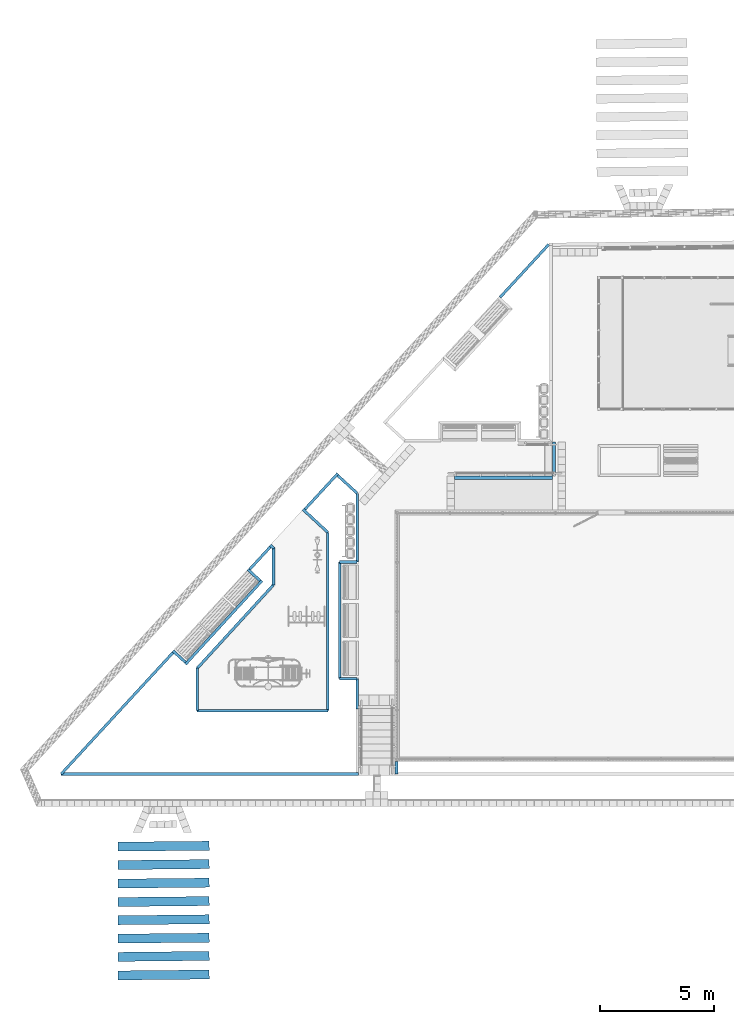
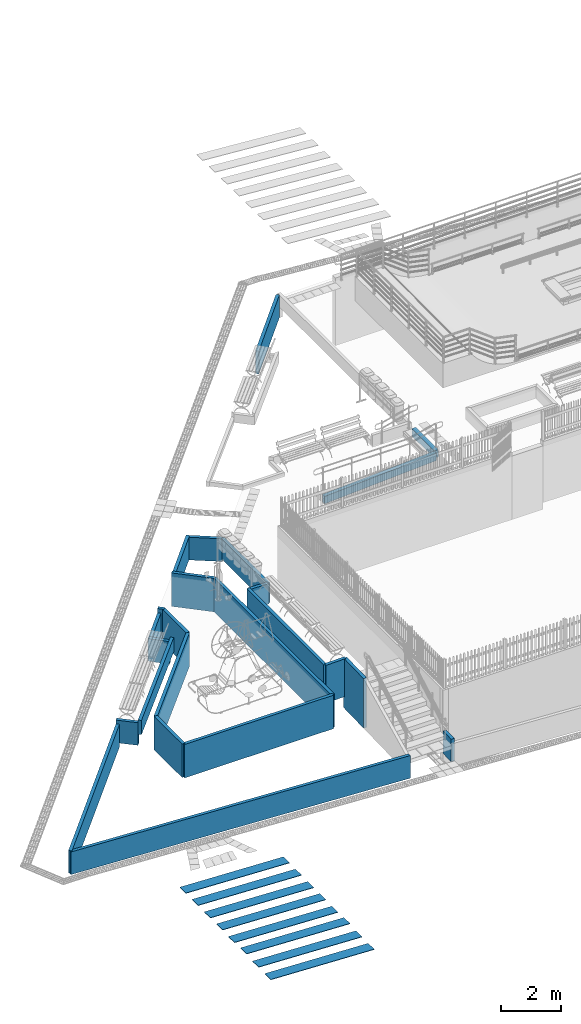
# One storey, part 10 of 237: 32 beams.
"""IFC2X3 building model written with IfcOpenShell, lengths in millimetres."""

from ifc_helpers import new_model, entity, si_unit, converted_unit, derived_unit, money_unit, direction, frame, frame_2d, origin_with_axes, place, context, subcontext, project, spatial, rectangle, extrude, clip, halfspace, material, type_object, element, save


model = new_model("IFC2X3")

# Units and contexts
model_context = context("Model", 3, precision=0.01, world=origin_with_axes(), true_north=direction((0.0, 1.0)))
body_context = subcontext(model_context, "Body", "Model", "MODEL_VIEW")
ifc_project = project(units=[si_unit("LENGTHUNIT", "METRE", prefix="MILLI"), si_unit("AREAUNIT", "SQUARE_METRE"), si_unit("VOLUMEUNIT", "CUBIC_METRE"), converted_unit("PLANEANGLEUNIT", "DEGREE", entity("IfcPlaneAngleMeasure", 0.0174532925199), si_unit("PLANEANGLEUNIT", "RADIAN"), dimensions=[0, 0, 0, 0, 0, 0, 0]), money_unit("USD"), converted_unit("TIMEUNIT", "Year", entity("IfcTimeMeasure", 31556926.0), si_unit("TIMEUNIT", "SECOND"), dimensions=[0, 0, 1, 0, 0, 0, 0]), si_unit("MASSUNIT", "GRAM", prefix="KILO"), si_unit("THERMODYNAMICTEMPERATUREUNIT", "DEGREE_CELSIUS"), si_unit("LUMINOUSINTENSITYUNIT", "LUMEN"), si_unit("ENERGYUNIT", "JOULE", prefix="MEGA"), derived_unit("THERMALCONDUCTANCEUNIT", [(si_unit("POWERUNIT", "WATT"), 1), (si_unit("LENGTHUNIT", "METRE"), -1), (si_unit("THERMODYNAMICTEMPERATUREUNIT", "KELVIN"), -1)]), derived_unit("SPECIFICHEATCAPACITYUNIT", [(si_unit("ENERGYUNIT", "JOULE"), 1), (si_unit("MASSUNIT", "GRAM", prefix="KILO"), -1), (si_unit("THERMODYNAMICTEMPERATUREUNIT", "KELVIN"), -1)]), derived_unit("MASSDENSITYUNIT", [(si_unit("MASSUNIT", "GRAM", prefix="KILO"), 1), (si_unit("VOLUMEUNIT", "CUBIC_METRE"), -1)])], contexts=[model_context])

# Site, building, storey
site_placement = place(None, origin_with_axes())
site = spatial("IfcSite", under=ifc_project, at=site_placement, Name="Local", CompositionType="ELEMENT")
building_placement = place(site_placement, origin_with_axes())
building = spatial("IfcBuilding", under=site, at=building_placement, Name="Construção", CompositionType="ELEMENT")
storey_placement = place(building_placement, origin_with_axes())
storey = spatial("IfcBuildingStorey", under=building, at=storey_placement, Name="Pavimento Térreo", CompositionType="ELEMENT", Elevation=0.0)

# Beams
ifc_material = material(Name="GENÉRICO - ESTRUTURAL")
beam_type_1 = type_object("IfcBeamType", Name="GENÉRICO - ESTRUTURAL 120 x 580", PredefinedType="NOTDEFINED")
beam_1_placement = place(storey_placement, frame((32970.4221769, 16900.1785551, -1764.1785296), z_axis=(0.0, 0.0, 1.0), x_axis=(0.737576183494, -0.675263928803, 0.0)))
element("IfcBeam", 1, at=beam_1_placement, inside=storey, type_object=beam_type_1, material=ifc_material, Name="Viga-030", context=body_context, shape_type="Clipping", body=[
    clip(clip(extrude(rectangle(XDim=579.510435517, YDim=120.0, at=frame_2d((-289.755217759, 0.0), x_axis=(1.0, 0.0))), frame((0.0, -4.66814056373, 0.0265900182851), z_axis=(0.0, 0.999983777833, -0.00569596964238), x_axis=(0.0, 0.00569596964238, 0.999983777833)), (0.0, 0.0, 1.0), 4982.75223581), halfspace(frame((0.0, 0.0, 0.0), z_axis=(0.0, 1.0, 0.0), x_axis=(0.0, 0.0, 1.0)), True)), halfspace(frame((0.0, 4973.33512364, 0.0), z_axis=(0.0, -1.0, 0.0), x_axis=(0.0, 0.0, -1.0)), True)),
])
beam_type_2 = type_object("IfcBeamType", Name="GENÉRICO - ESTRUTURAL 120 x 919", PredefinedType="NOTDEFINED")
beam_2_placement = place(storey_placement, frame((39649.0084728, 25261.219716, -1648.84947228), z_axis=(0.0, 0.0, 1.0), x_axis=(-0.735746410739, 0.677257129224, 0.0)))
element("IfcBeam", 2, at=beam_2_placement, inside=storey, type_object=beam_type_2, material=ifc_material, Name="Viga-030", context=body_context, shape_type="Clipping", body=[
    clip(clip(extrude(rectangle(XDim=919.288027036, YDim=120.0, at=frame_2d((-459.644013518, 0.0), x_axis=(1.0, 0.0))), frame((0.0, -52.050283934, 2.0855852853), z_axis=(0.0, 0.99919821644, -0.0400365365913), x_axis=(0.0, 0.0400365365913, 0.99919821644)), (0.0, 0.0, 1.0), 2232.17431685), halfspace(frame((0.0, 0.0, 0.0), z_axis=(0.0, 1.0, 0.0), x_axis=(0.0, 0.0, 1.0)), True)), halfspace(frame((0.0, 2126.28402831, 0.0), z_axis=(0.0, -1.0, 0.0), x_axis=(0.0, 0.0, -1.0)), True)),
])
beam_3_placement = place(storey_placement, frame((42222.4440926, 12622.6236011, -2821.29753448), z_axis=(0.0, 0.0, 1.0), x_axis=(-1.0, 0.0, 0.0)))
element("IfcBeam", 3, at=beam_3_placement, inside=storey, type_object=beam_type_2, material=ifc_material, Name="Viga-030", context=body_context, shape_type="Clipping", body=[
    clip(clip(extrude(rectangle(XDim=919.288027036, YDim=120.0, at=frame_2d((-459.644013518, 0.0), x_axis=(1.0, 0.0))), frame((0.0, -35.6481164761, 0.977844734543), z_axis=(0.0, 0.99962399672, -0.027420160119), x_axis=(0.0, 0.027420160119, 0.99962399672)), (0.0, 0.0, 1.0), 611.492061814), halfspace(frame((0.0, 0.0, 0.0), z_axis=(0.0, 1.0, 0.0), x_axis=(0.0, 0.0, 1.0)), True)), halfspace(frame((0.0, 539.965905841, 0.0), z_axis=(0.0, -1.0, 0.0), x_axis=(0.0, 0.0, -1.0)), True)),
])
beam_4_placement = place(storey_placement, frame((32415.7451354, 17492.436553, -1883.39824674), z_axis=(0.0, 0.0, 1.0), x_axis=(-0.677327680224, -0.735681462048, 0.0)))
element("IfcBeam", 4, at=beam_4_placement, inside=storey, type_object=beam_type_2, material=ifc_material, Name="Viga-030", context=body_context, shape_type="Clipping", body=[
    clip(clip(extrude(rectangle(XDim=919.288027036, YDim=120.0, at=frame_2d((-459.644013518, 0.0), x_axis=(1.0, 0.0))), frame((0.0, -10.6018318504, -0.0864588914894), z_axis=(0.0, 0.999966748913, 0.00815481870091), x_axis=(0.0, -0.00815481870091, 0.999966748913)), (0.0, 0.0, 1.0), 770.279253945), halfspace(frame((0.0, 0.0, 0.0), z_axis=(0.0, 1.0, 0.0), x_axis=(0.0, 0.0, 1.0)), True)), halfspace(frame((0.0, 749.049977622, 0.0), z_axis=(0.0, -1.0, 0.0), x_axis=(0.0, 0.0, -1.0)), True)),
])
beam_5_placement = place(storey_placement, frame((40562.1512976, 12083.0956335, -2899.56876412), z_axis=(0.0, 0.0, 1.0), x_axis=(0.0, 1.0, 0.0)))
element("IfcBeam", 5, at=beam_5_placement, inside=storey, type_object=beam_type_2, material=ifc_material, Name="Viga-030", context=body_context, shape_type="Clipping", body=[
    clip(clip(extrude(rectangle(XDim=919.288027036, YDim=120.0, at=frame_2d((-459.644013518, 0.0), x_axis=(1.0, 0.0))), frame((0.0, -64.3611872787, -3.19017376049), z_axis=(0.0, 0.998773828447, 0.0495059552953), x_axis=(0.0, -0.0495059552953, 0.998773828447)), (0.0, 0.0, 1.0), 13190.5401605), halfspace(frame((0.0, 0.0, 0.0), z_axis=(0.0, 1.0, 0.0), x_axis=(0.0, 0.0, 1.0)), True)), halfspace(frame((0.0, 13045.6439208, 0.0), z_axis=(0.0, -1.0, 0.0), x_axis=(0.0, 0.0, -1.0)), True)),
])
beam_6_placement = place(storey_placement, frame((39652.6326915, 25176.5523805, -1646.26270956), z_axis=(0.0, 0.0, 1.0), x_axis=(-0.675280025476, -0.737561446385, 0.0)))
element("IfcBeam", 6, at=beam_6_placement, inside=storey, type_object=beam_type_2, material=ifc_material, Name="Viga-030", context=body_context, shape_type="Clipping", body=[
    clip(clip(extrude(rectangle(XDim=919.288027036, YDim=120.0, at=frame_2d((-459.644013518, 0.0), x_axis=(1.0, 0.0))), frame((0.0, -122.268725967, -11.5503031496), z_axis=(0.0, 0.995567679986, 0.0940478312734), x_axis=(0.0, -0.0940478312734, 0.995567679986)), (0.0, 0.0, 1.0), 1402.94640781), halfspace(frame((0.0, 0.0, 0.0), z_axis=(0.0, 1.0, 0.0), x_axis=(0.0, 0.0, 1.0)), True)), halfspace(frame((0.0, 1152.19064843, 0.0), z_axis=(0.0, -1.0, 0.0), x_axis=(0.0, 0.0, -1.0)), True)),
])
beam_7_placement = place(storey_placement, frame((35701.5105862, 21061.2804101, -1879.74628854), z_axis=(0.0, 0.0, 1.0), x_axis=(-0.675263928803, -0.737576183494, 0.0)))
element("IfcBeam", 7, at=beam_7_placement, inside=storey, type_object=beam_type_2, material=ifc_material, Name="Viga-030", context=body_context, shape_type="Clipping", body=[
    clip(clip(extrude(rectangle(XDim=919.288027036, YDim=120.0, at=frame_2d((-459.644013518, 0.0), x_axis=(1.0, 0.0))), frame((0.0, -35.4546579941, 0.967256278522), z_axis=(0.0, 0.999628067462, -0.0272713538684), x_axis=(0.0, 0.0272713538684, 0.999628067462)), (0.0, 0.0, 1.0), 806.665562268), halfspace(frame((0.0, 0.0, 0.0), z_axis=(0.0, 1.0, 0.0), x_axis=(0.0, 0.0, 1.0)), True)), halfspace(frame((0.0, 735.45622111, 0.0), z_axis=(0.0, -1.0, 0.0), x_axis=(0.0, 0.0, -1.0)), True)),
])
beam_8_placement = place(storey_placement, frame((46774.640832, 33000.0697679, -1359.30166941), z_axis=(0.0, 0.0, 1.0), x_axis=(0.735719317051, -0.677286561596, 0.0)))
element("IfcBeam", 8, at=beam_8_placement, inside=storey, type_object=beam_type_2, material=ifc_material, Name="Viga-030", context=body_context, shape_type="Clipping", body=[
    clip(clip(extrude(rectangle(XDim=919.288027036, YDim=120.0, at=frame_2d((-459.644013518, 0.0), x_axis=(1.0, 0.0))), frame((0.0, -60.2529014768, -2.79547910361), z_axis=(0.0, 0.998925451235, 0.0463459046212), x_axis=(0.0, -0.0463459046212, 0.998925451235)), (0.0, 0.0, 1.0), 3277.75549894), halfspace(frame((0.0, 0.0, 0.0), z_axis=(0.0, 1.0, 0.0), x_axis=(0.0, 0.0, 1.0)), True)), halfspace(frame((0.0, 3153.72758786, 0.0), z_axis=(0.0, -1.0, 0.0), x_axis=(0.0, 0.0, -1.0)), True)),
])
beam_9_placement = place(storey_placement, frame((27516.5073768, 12083.0956335, -2238.88881297), z_axis=(0.0, 0.0, 1.0), x_axis=(0.735668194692, -0.677342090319, 0.0)))
element("IfcBeam", 9, at=beam_9_placement, inside=storey, type_object=beam_type_2, material=ifc_material, Name="Viga-030", context=body_context, shape_type="Clipping", body=[
    clip(clip(extrude(rectangle(XDim=919.288027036, YDim=120.0, at=frame_2d((-459.644013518, 0.0), x_axis=(1.0, 0.0))), frame((0.0, -36.4740949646, -1.02370172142), z_axis=(0.0, 0.99960636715, 0.0280554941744), x_axis=(0.0, -0.0280554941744, 0.99960636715)), (0.0, 0.0, 1.0), 7313.58060077), halfspace(frame((0.0, 0.0, 0.0), z_axis=(0.0, 1.0, 0.0), x_axis=(0.0, 0.0, 1.0)), True)), halfspace(frame((0.0, 7237.75354526, 0.0), z_axis=(0.0, -1.0, 0.0), x_axis=(0.0, 0.0, -1.0)), True)),
])
beam_10_placement = place(storey_placement, frame((36731.469979, 22090.928501, -1823.69784874), z_axis=(0.0, 0.0, 1.0), x_axis=(-0.735746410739, 0.677257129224, 0.0)))
element("IfcBeam", 10, at=beam_10_placement, inside=storey, type_object=beam_type_2, material=ifc_material, Name="Viga-030", context=body_context, shape_type="Clipping", body=[
    clip(clip(extrude(rectangle(XDim=919.288027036, YDim=120.0, at=frame_2d((-459.644013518, 0.0), x_axis=(1.0, 0.0))), frame((0.0, -52.050283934, 2.0855852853), z_axis=(0.0, 0.99919821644, -0.0400365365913), x_axis=(0.0, 0.0400365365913, 0.99919821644)), (0.0, 0.0, 1.0), 1499.70871117), halfspace(frame((0.0, 0.0, 0.0), z_axis=(0.0, 1.0, 0.0), x_axis=(0.0, 0.0, 1.0)), True)), halfspace(frame((0.0, 1394.40570152, 0.0), z_axis=(0.0, -1.0, 0.0), x_axis=(0.0, 0.0, -1.0)), True)),
])
beam_type_3 = type_object("IfcBeamType", Name="GENÉRICO - ESTRUTURAL 150 x 300", PredefinedType="NOTDEFINED")
beam_11_placement = place(storey_placement, frame((49137.3648833, 26654.9398659, -1457.10819655), z_axis=(0.0, 0.0, 1.0), x_axis=(-1.0, 0.0, 0.0)))
element("IfcBeam", 11, at=beam_11_placement, inside=storey, type_object=beam_type_3, material=ifc_material, Name="Viga-032", context=body_context, shape_type="SweptSolid", body=[
    extrude(rectangle(XDim=300.0, YDim=150.0, at=frame_2d((-150.0, 0.0), x_axis=(1.0, 0.0))), frame((0.0, 0.0, 0.0), z_axis=(0.0, 1.0, 0.0), x_axis=(0.0, 0.0, 1.0)), (0.0, 0.0, 1.0), 1500.0),
])
beam_12_placement = place(storey_placement, frame((49062.4345106, 25081.0713961, -1457.10819655), z_axis=(0.0, 0.0, 1.0), x_axis=(0.0, 1.0, 0.0)))
element("IfcBeam", 12, at=beam_12_placement, inside=storey, type_object=beam_type_3, material=ifc_material, Name="Viga-032", context=body_context, shape_type="Clipping", body=[
    clip(clip(extrude(rectangle(XDim=300.0, YDim=150.0, at=frame_2d((-150.0, 0.0), x_axis=(1.0, 0.0))), frame((0.0, -25.3163868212, 1.51335829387), z_axis=(0.0, 0.998218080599, -0.0596712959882), x_axis=(0.0, 0.0596712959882, 0.998218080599)), (0.0, 0.0, 1.0), 4358.39908954), halfspace(frame((0.0, 0.0, 0.0), z_axis=(0.0, 1.0, 0.0), x_axis=(0.0, 0.0, 1.0)), True)), halfspace(frame((0.0, 4300.0, 0.0), z_axis=(0.0, -1.0, 0.0), x_axis=(0.0, 0.0, -1.0)), True)),
])
beam_type_4 = type_object("IfcBeamType", Name="GENÉRICO - ESTRUTURAL 120 x 826", PredefinedType="NOTDEFINED")
beam_13_placement = place(storey_placement, frame((39735.3401785, 21383.4141231, -1509.03727758), z_axis=(0.0, 0.0, 1.0), x_axis=(-3.89548840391e-06, -0.999999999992, 0.0)))
element("IfcBeam", 13, at=beam_13_placement, inside=storey, type_object=beam_type_4, material=ifc_material, Name="Viga-032", context=body_context, shape_type="Clipping", body=[
    clip(clip(extrude(rectangle(XDim=826.434589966, YDim=120.0, at=frame_2d((-413.217294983, 0.0), x_axis=(1.0, 0.0))), frame((0.0, -31.6875256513, 0.859434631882), z_axis=(0.0, 0.999632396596, -0.0271122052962), x_axis=(0.0, 0.0271122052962, 0.999632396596)), (0.0, 0.0, 1.0), 830.785164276), halfspace(frame((0.0, 0.0, 0.0), z_axis=(0.0, 1.0, 0.0), x_axis=(0.0, 0.0, 1.0)), True)), halfspace(frame((0.0, 767.104713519, 0.0), z_axis=(0.0, -1.0, 0.0), x_axis=(0.0, 0.0, -1.0)), True)),
])
beam_type_5 = type_object("IfcBeamType", Name="GENÉRICO - ESTRUTURAL 120 x 835", PredefinedType="NOTDEFINED")
beam_14_placement = place(storey_placement, frame((40502.4448921, 21383.4111348, -1530.24619553), z_axis=(0.0, 0.0, 1.0), x_axis=(1.0, 2.65144894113e-07, 0.0)))
element("IfcBeam", 14, at=beam_14_placement, inside=storey, type_object=beam_type_5, material=ifc_material, Name="Viga-033", context=body_context, shape_type="Clipping", body=[
    clip(clip(extrude(rectangle(XDim=834.501983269, YDim=120.0, at=frame_2d((-417.250991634, 0.0), x_axis=(1.0, 0.0))), frame((0.0, -1.53142384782, 0.00198723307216), z_axis=(0.0, 0.999999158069, -0.0012976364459), x_axis=(0.0, 0.0012976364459, 0.999999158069)), (0.0, 0.0, 1.0), 3018.15530398), halfspace(frame((0.0, 0.0, 0.0), z_axis=(0.0, 1.0, 0.0), x_axis=(0.0, 0.0, 1.0)), True)), halfspace(frame((0.0, 3015.0899152, 0.0), z_axis=(0.0, -1.0, 0.0), x_axis=(0.0, 0.0, -1.0)), True)),
])
beam_type_6 = type_object("IfcBeamType", Name="GENÉRICO - ESTRUTURAL 120 x 2013", PredefinedType="NOTDEFINED")
beam_15_placement = place(storey_placement, frame((40500.9553928, 16263.4127109, -1466.90989885), z_axis=(0.0, 0.0, 1.0), x_axis=(-1.0, -2.61928543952e-10, 0.0)))
element("IfcBeam", 15, at=beam_15_placement, inside=storey, type_object=beam_type_6, material=ifc_material, Name="Viga-030", context=body_context, shape_type="Clipping", body=[
    clip(clip(extrude(rectangle(XDim=2012.87391206, YDim=120.0, at=frame_2d((-1006.43695603, 0.0), x_axis=(1.0, 0.0))), frame((0.0, -78.0551487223, 2.14108973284), z_axis=(0.0, 0.99962399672, -0.027420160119), x_axis=(0.0, 0.027420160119, 0.99962399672)), (0.0, 0.0, 1.0), 1481.56715876), halfspace(frame((0.0, 0.0, 0.0), z_axis=(0.0, 1.0, 0.0), x_axis=(0.0, 0.0, 1.0)), True)), halfspace(frame((0.0, 1324.89978721, 0.0), z_axis=(0.0, -1.0, 0.0), x_axis=(0.0, 0.0, -1.0)), True)),
])
beam_type_7 = type_object("IfcBeamType", Name="GENÉRICO - ESTRUTURAL 120 x 1535", PredefinedType="NOTDEFINED")
beam_16_placement = place(storey_placement, frame((40500.9553928, 16263.4127109, -1466.40421904), z_axis=(0.0, 0.0, 1.0), x_axis=(3.82994050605e-06, 0.999999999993, 0.0)))
element("IfcBeam", 16, at=beam_16_placement, inside=storey, type_object=beam_type_7, material=ifc_material, Name="Viga-030", context=body_context, shape_type="Clipping", body=[
    clip(clip(extrude(rectangle(XDim=1535.02015373, YDim=120.0, at=frame_2d((-767.510076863, 0.0), x_axis=(1.0, 0.0))), frame((0.0, -41.0205983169, 0.775269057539), z_axis=(0.0, 0.999821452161, -0.0188961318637), x_axis=(0.0, 0.0188961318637, 0.999821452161)), (0.0, 0.0, 1.0), 848.046041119), halfspace(frame((0.0, 0.0, 0.0), z_axis=(0.0, 1.0, 0.0), x_axis=(0.0, 0.0, 1.0)), True)), halfspace(frame((0.0, 765.853427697, 0.0), z_axis=(0.0, -1.0, 0.0), x_axis=(0.0, 0.0, -1.0)), True)),
])
beam_type_8 = type_object("IfcBeamType", Name="GENÉRICO - ESTRUTURAL 400 x 20", PredefinedType="NOTDEFINED")
for number, where, z_axis, x_axis, name in (
    (17, (34011.6570869, 7317.98999927, -2995.29342945), (0.0, 0.0, 1.0), (-0.0104361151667, 0.999945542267, 0.0), "Viga-031"),
    (18, (34011.6570869, 8131.91817848, -2981.92123954), (0.0, 0.0, 1.0), (-0.0104361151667, 0.999945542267, 0.0), "Viga-031"),
    (19, (34011.6570869, 6510.22756462, -2995.29342945), (0.0, 0.0, 1.0), (-0.0104361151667, 0.999945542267, 0.0), "Viga-031"),
    (20, (34011.6570869, 4104.05902068, -3048.57549569), (0.0, 0.0, 1.0), (-0.0104361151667, 0.999945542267, 0.0), "Viga-031"),
    (21, (34011.6570869, 3289.12328645, -3061.62012047), (0.0, 0.0, 1.0), (-0.0104361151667, 0.999945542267, 0.0), "Viga-031"),
    (22, (34011.6570869, 4903.66471395, -2995.29342945), (0.0, 0.0, 1.0), (-0.0104361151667, 0.999945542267, 0.0), "Viga-031"),
    (23, (34011.6570869, 5711.86862348, -3023.36329066), (0.0, 0.0, 1.0), (-0.0104361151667, 0.999945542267, 0.0), "Viga-031"),
):
    element("IfcBeam", number, at=place(storey_placement, frame(where, z_axis=z_axis, x_axis=x_axis)), inside=storey, type_object=beam_type_8, material=ifc_material, Name=name, context=body_context, shape_type="Clipping", body=[
        clip(clip(extrude(rectangle(XDim=20.0, YDim=400.0, at=frame_2d((-10.0, 0.0), x_axis=(1.0, 0.0))), frame((0.0, -1.36824525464, -0.0662661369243), z_axis=(0.0, 0.998829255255, 0.048374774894), x_axis=(0.0, -0.048374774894, 0.998829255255)), (0.0, 0.0, 1.0), 4007.42816597), halfspace(frame((0.0, 0.0, 0.0), z_axis=(0.0, 1.0, 0.0), x_axis=(0.0, 0.0, 1.0)), True)), halfspace(frame((0.0, 4000.0, 0.0), z_axis=(0.0, -1.0, 0.0), x_axis=(0.0, 0.0, -1.0)), True)),
    ])
beam_17_placement = place(storey_placement, frame((34011.6570869, 8937.71977799, -2971.64974118), z_axis=(0.0, 0.0, 1.0), x_axis=(-0.0104361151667, 0.999945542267, 0.0)))
element("IfcBeam", 24, at=beam_17_placement, inside=storey, type_object=beam_type_8, material=ifc_material, Name="Viga-031", context=body_context, shape_type="Clipping", body=[
    clip(clip(extrude(rectangle(XDim=20.0, YDim=400.0, at=frame_2d((-10.0, 0.0), x_axis=(1.0, 0.0))), frame((0.0, -1.35890525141, -0.0653634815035), z_axis=(0.0, 0.998845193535, 0.0480445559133), x_axis=(0.0, -0.0480445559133, 0.998845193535)), (0.0, 0.0, 1.0), 4007.34551902), halfspace(frame((0.0, 0.0, 0.0), z_axis=(0.0, 1.0, 0.0), x_axis=(0.0, 0.0, 1.0)), True)), halfspace(frame((0.0, 4000.0, 0.0), z_axis=(0.0, -1.0, 0.0), x_axis=(0.0, 0.0, -1.0)), True)),
])
beam_type_9 = type_object("IfcBeamType", Name="GENÉRICO - ESTRUTURAL 120 x 1362", PredefinedType="NOTDEFINED")
beam_18_placement = place(storey_placement, frame((39735.1019651, 16263.4156441, -1480.90505223), z_axis=(0.0, 0.0, 1.0), x_axis=(0.999999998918, -4.65260704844e-05, 0.0)))
element("IfcBeam", 25, at=beam_18_placement, inside=storey, type_object=beam_type_9, material=ifc_material, Name="Viga-031", context=body_context, shape_type="SweptSolid", body=[
    extrude(rectangle(XDim=1361.63631489, YDim=120.0, at=frame_2d((-680.818157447, 0.0), x_axis=(1.0, 0.0))), frame((0.0, 0.0, 0.0), z_axis=(0.0, 1.0, 0.0), x_axis=(0.0, 0.0, 1.0)), (0.0, 0.0, 1.0), 5119.99848449),
])
beam_19_placement = place(storey_placement, frame((39214.7879009, 14863.4372905, -1660.0), z_axis=(0.0, 0.0, 1.0), x_axis=(0.999999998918, -4.65260704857e-05, 0.0)))
element("IfcBeam", 26, at=beam_19_placement, inside=storey, type_object=beam_type_9, material=ifc_material, Name="Viga-031", context=body_context, shape_type="SweptSolid", body=[
    extrude(rectangle(XDim=1361.63631489, YDim=120.0, at=frame_2d((-680.818157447, 0.0), x_axis=(1.0, 0.0))), frame((0.0, 0.0, 0.0), z_axis=(0.0, 1.0, 0.0), x_axis=(0.0, 0.0, 1.0)), (0.0, 0.0, 1.0), 7821.44598419),
])
beam_20_placement = place(storey_placement, frame((39215.151802, 22684.8832662, -1660.0), z_axis=(0.0, 0.0, 1.0), x_axis=(0.678844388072, 0.734282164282, 0.0)))
element("IfcBeam", 27, at=beam_20_placement, inside=storey, type_object=beam_type_9, material=ifc_material, Name="Viga-031", context=body_context, shape_type="SweptSolid", body=[
    extrude(rectangle(XDim=1361.63631489, YDim=120.0, at=frame_2d((-680.818157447, 0.0), x_axis=(1.0, 0.0))), frame((0.0, 0.0, 0.0), z_axis=(0.0, 1.0, 0.0), x_axis=(0.0, 0.0, 1.0)), (0.0, 0.0, 1.0), 1485.63720374),
])
beam_21_placement = place(storey_placement, frame((36832.4063295, 20386.1419738, -1660.0), z_axis=(0.0, 0.0, 1.0), x_axis=(0.999999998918, -4.65260704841e-05, 0.0)))
element("IfcBeam", 28, at=beam_21_placement, inside=storey, type_object=beam_type_9, material=ifc_material, Name="Viga-031", context=body_context, shape_type="SweptSolid", body=[
    extrude(rectangle(XDim=1361.63631489, YDim=120.0, at=frame_2d((-680.818157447, 0.0), x_axis=(1.0, 0.0))), frame((0.0, 0.0, 0.0), z_axis=(0.0, 1.0, 0.0), x_axis=(0.0, 0.0, 1.0)), (0.0, 0.0, 1.0), 1633.55082193),
])
beam_22_placement = place(storey_placement, frame((33484.8744981, 16724.8121715, -1660.0), z_axis=(0.0, 0.0, 1.0), x_axis=(0.738025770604, -0.674772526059, 0.0)))
element("IfcBeam", 29, at=beam_22_placement, inside=storey, type_object=beam_type_9, material=ifc_material, Name="Viga-032", context=body_context, shape_type="SweptSolid", body=[
    extrude(rectangle(XDim=1361.63631489, YDim=120.0, at=frame_2d((-680.818157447, 0.0), x_axis=(1.0, 0.0))), frame((0.0, 0.0, 0.0), z_axis=(0.0, 1.0, 0.0), x_axis=(0.0, 0.0, 1.0)), (0.0, 0.0, 1.0), 4960.97825871),
])
beam_23_placement = place(storey_placement, frame((39214.7879009, 14863.4372905, -1660.0), z_axis=(0.0, 0.0, 1.0), x_axis=(4.6526070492e-05, 0.999999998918, 0.0)))
element("IfcBeam", 30, at=beam_23_placement, inside=storey, type_object=beam_type_9, material=ifc_material, Name="Viga-031", context=body_context, shape_type="SweptSolid", body=[
    extrude(rectangle(XDim=1361.63631489, YDim=120.0, at=frame_2d((-680.818157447, 0.0), x_axis=(1.0, 0.0))), frame((0.0, 0.0, 0.0), z_axis=(0.0, 1.0, 0.0), x_axis=(0.0, 0.0, 1.0)), (0.0, 0.0, 1.0), 5729.99999903),
])
beam_24_placement = place(storey_placement, frame((36849.6510316, 21982.1214937, -1660.0), z_axis=(0.0, 0.0, 1.0), x_axis=(0.677308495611, 0.735699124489, 0.0)))
element("IfcBeam", 31, at=beam_24_placement, inside=storey, type_object=beam_type_9, material=ifc_material, Name="Viga-031", context=body_context, shape_type="SweptSolid", body=[
    extrude(rectangle(XDim=1361.63631489, YDim=120.0, at=frame_2d((-680.818157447, 0.0), x_axis=(1.0, 0.0))), frame((0.0, 0.0, 0.0), z_axis=(0.0, 1.0, 0.0), x_axis=(0.0, 0.0, 1.0)), (0.0, 0.0, 1.0), 220.641607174),
])
beam_25_placement = place(storey_placement, frame((33484.7879081, 14863.7038849, -1660.0), z_axis=(0.0, 0.0, 1.0), x_axis=(0.999999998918, -4.65260704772e-05, 0.0)))
element("IfcBeam", 32, at=beam_25_placement, inside=storey, type_object=beam_type_9, material=ifc_material, Name="Viga-031", context=body_context, shape_type="SweptSolid", body=[
    extrude(rectangle(XDim=1361.63631489, YDim=120.0, at=frame_2d((-680.818157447, 0.0), x_axis=(1.0, 0.0))), frame((0.0, 0.0, 0.0), z_axis=(0.0, 1.0, 0.0), x_axis=(0.0, 0.0, 1.0)), (0.0, 0.0, 1.0), 1861.10828865),
])

save(model, "model.ifc")
